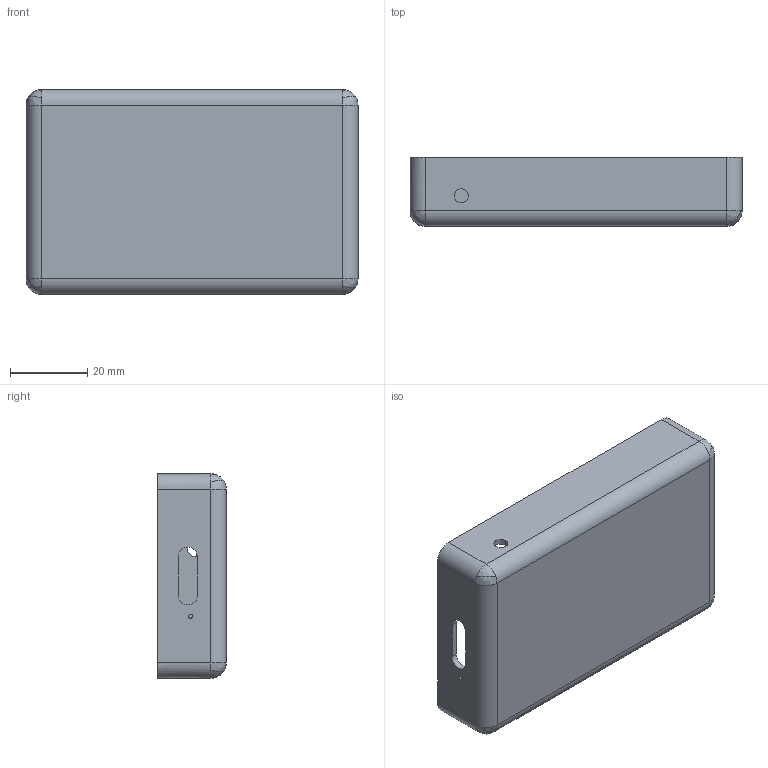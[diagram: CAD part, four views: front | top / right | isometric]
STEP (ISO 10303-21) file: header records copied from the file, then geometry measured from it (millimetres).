
FILE_DESCRIPTION (( 'STEP AP203' ), '1' );
FILE_NAME ('03-30-Pandora concept 2 v23a-Hµç³Ø.STEP', '2017-03-30T09:32:24', ( 'USER-' ), ( 'MS' ), 'SwSTEP 2.0', 'SolidWorks 2015', '' );
FILE_SCHEMA (( 'CONFIG_CONTROL_DESIGN' ));
Length unit declared in the file: millimetre
Products named in the file (1): 03-30-Pandora concept 2 v23a-H萇喀
Bounding box: 86 x 17.8 x 53 mm (x, y, z)
Volume: 13638.4 mm3; surface area: 18863.1 mm2
Topology: 1 solids, 1 shells, 155 faces, 413 edges, 254 vertices
Faces by surface type: cylinder 75, plane 64, bspline 16
Entity records: 5198 total; most frequent: CARTESIAN_POINT 1251, DIRECTION 855, ORIENTED_EDGE 794, EDGE_CURVE 397, AXIS2_PLACEMENT_3D 330, VERTEX_POINT 254, VECTOR 195, LINE 195
